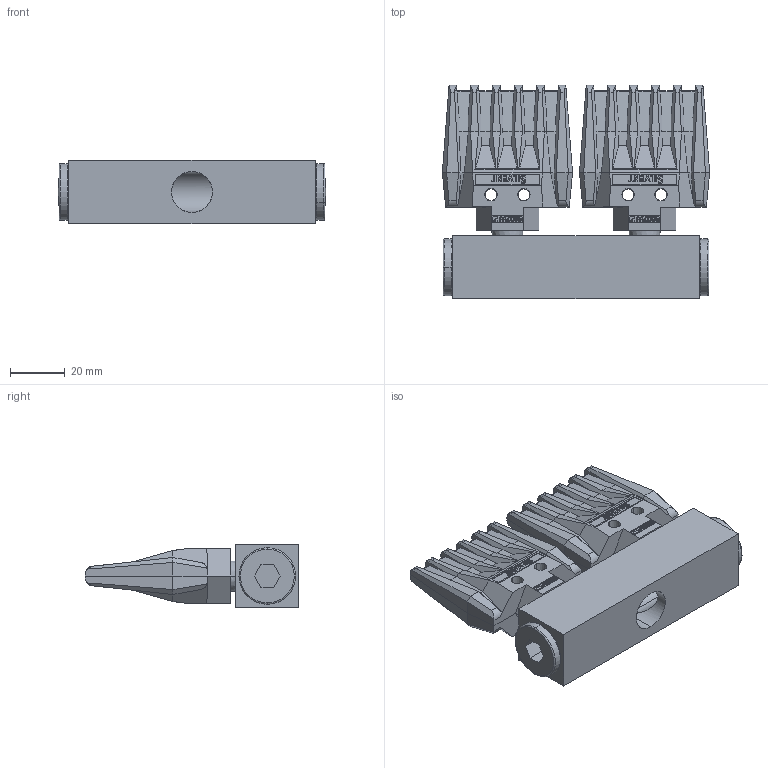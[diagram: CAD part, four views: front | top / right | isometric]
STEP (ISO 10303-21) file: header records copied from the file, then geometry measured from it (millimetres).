
FILE_DESCRIPTION (( 'STEP AP214' ), '1' );
FILE_NAME ('70016-1.STEP', '2023-02-02T12:15:57', ( '' ), ( '' ), 'SwSTEP 2.0', 'SolidWorks 2021', '' );
FILE_SCHEMA (( 'AUTOMOTIVE_DESIGN' ));
Length unit declared in the file: millimetre
Products named in the file (4): 70016-1; 9002W-Z_dummy_NPT; Plugg 300; Profil 302
Assembly tree (5 placements, depth 2):
  70016-1
    Profil 302
    Plugg 300  x2
    9002W-Z_dummy_NPT  x2
Bounding box: 97.46 x 77.91 x 23 mm (x, y, z)
Volume: 87043.7 mm3; surface area: 31822.8 mm2
Topology: 5 solids, 5 shells, 1220 faces, 3282 edges, 2152 vertices
Faces by surface type: plane 892, bspline 192, cylinder 72, cone 56, torus 8
Entity records: 24807 total; most frequent: CARTESIAN_POINT 10208, ORIENTED_EDGE 3318, DIRECTION 2377, EDGE_CURVE 1659, VECTOR 1167, LINE 1167, VERTEX_POINT 1088, EDGE_LOOP 669
